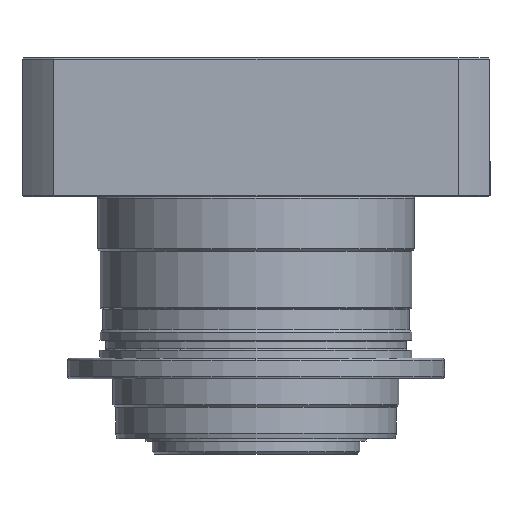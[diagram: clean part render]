
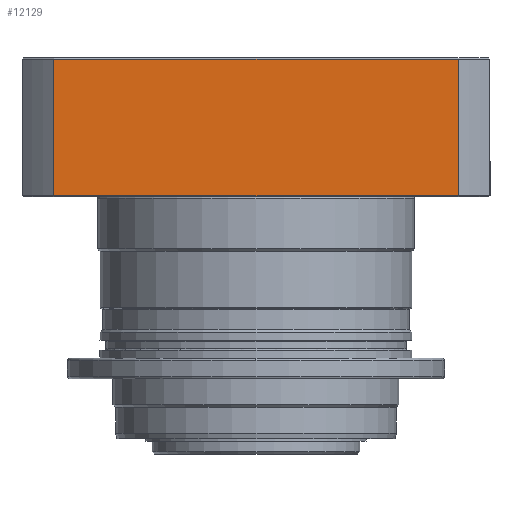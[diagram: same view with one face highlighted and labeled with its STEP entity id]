
A CAD part, front view. The second image highlights one B-rep face of the part: STEP entity #12129.
In plain terms, the highlighted planar face has unit normal (0, -1, 0) as drawn and (-1, 0, 0) by its records, which use the part's own axes.
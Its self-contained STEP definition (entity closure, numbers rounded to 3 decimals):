
#162 = VERTEX_POINT ( 'NONE', #11782 ) ;
#400 = PLANE ( 'NONE',  #2444 ) ;
#691 = EDGE_CURVE ( 'NONE', #7811, #14125, #2198, .T. ) ;
#1524 = DIRECTION ( 'NONE',  ( 0., -1., 0. ) ) ;
#1754 = CARTESIAN_POINT ( 'NONE',  ( -90., -77.852, 53. ) ) ;
#1896 = DIRECTION ( 'NONE',  ( 0., 1., 0. ) ) ;
#1992 = VECTOR ( 'NONE', #12557, 1000. ) ;
#2094 = CARTESIAN_POINT ( 'NONE',  ( -90., 77.852, 53. ) ) ;
#2198 = LINE ( 'NONE', #2094, #4389 ) ;
#2214 = CARTESIAN_POINT ( 'NONE',  ( -90., -77.852, 0.5 ) ) ;
#2444 = AXIS2_PLACEMENT_3D ( 'NONE', #12258, #8904, #4597 ) ;
#3154 = DIRECTION ( 'NONE',  ( 0., 0., -1. ) ) ;
#3251 = ORIENTED_EDGE ( 'NONE', *, *, #691, .T. ) ;
#3540 = LINE ( 'NONE', #5375, #5061 ) ;
#4389 = VECTOR ( 'NONE', #1896, 1000. ) ;
#4597 = DIRECTION ( 'NONE',  ( 0., 0., -1. ) ) ;
#5061 = VECTOR ( 'NONE', #3154, 1000. ) ;
#5064 = ORIENTED_EDGE ( 'NONE', *, *, #5186, .F. ) ;
#5186 = EDGE_CURVE ( 'NONE', #7811, #13788, #3540, .T. ) ;
#5375 = CARTESIAN_POINT ( 'NONE',  ( -90., -77.852, 53.5 ) ) ;
#5483 = EDGE_CURVE ( 'NONE', #162, #13788, #6581, .T. ) ;
#6581 = LINE ( 'NONE', #9062, #9140 ) ;
#6625 = ORIENTED_EDGE ( 'NONE', *, *, #7713, .T. ) ;
#7257 = CARTESIAN_POINT ( 'NONE',  ( -90., 77.852, 53.5 ) ) ;
#7713 = EDGE_CURVE ( 'NONE', #14125, #162, #7910, .T. ) ;
#7811 = VERTEX_POINT ( 'NONE', #1754 ) ;
#7910 = LINE ( 'NONE', #7257, #1992 ) ;
#7972 = CARTESIAN_POINT ( 'NONE',  ( -90., 77.852, 53. ) ) ;
#8579 = FACE_OUTER_BOUND ( 'NONE', #11401, .T. ) ;
#8904 = DIRECTION ( 'NONE',  ( 1., 0., 0. ) ) ;
#9062 = CARTESIAN_POINT ( 'NONE',  ( -90., -77.852, 0.5 ) ) ;
#9140 = VECTOR ( 'NONE', #1524, 1000. ) ;
#10894 = ORIENTED_EDGE ( 'NONE', *, *, #5483, .T. ) ;
#11401 = EDGE_LOOP ( 'NONE', ( #5064, #3251, #6625, #10894 ) ) ;
#11782 = CARTESIAN_POINT ( 'NONE',  ( -90., 77.852, 0.5 ) ) ;
#12129 = ADVANCED_FACE ( 'NONE', ( #8579 ), #400, .F. ) ;
#12258 = CARTESIAN_POINT ( 'NONE',  ( -90., -77.852, 53.5 ) ) ;
#12557 = DIRECTION ( 'NONE',  ( 0., 0., -1. ) ) ;
#13788 = VERTEX_POINT ( 'NONE', #2214 ) ;
#14125 = VERTEX_POINT ( 'NONE', #7972 ) ;
